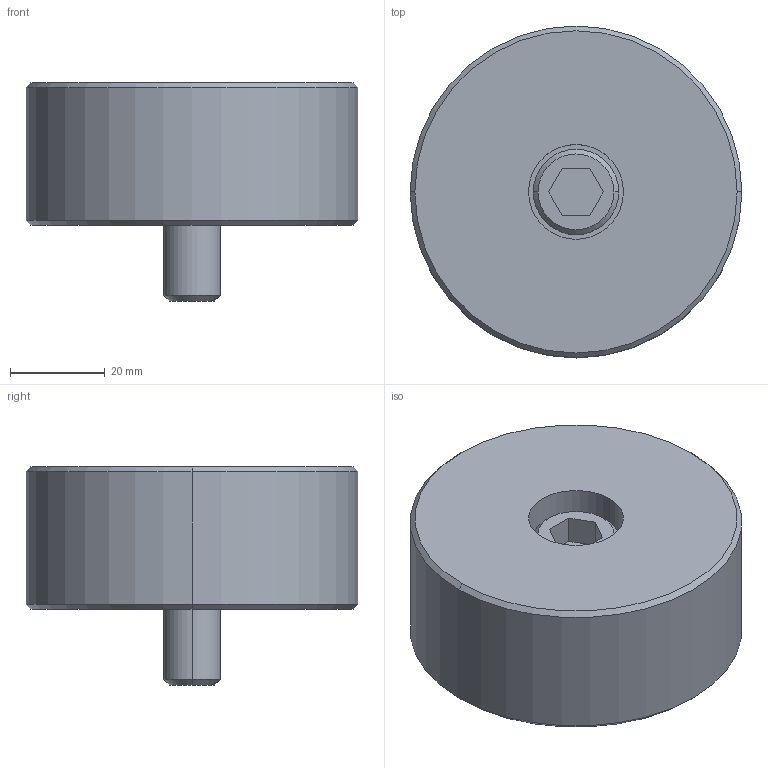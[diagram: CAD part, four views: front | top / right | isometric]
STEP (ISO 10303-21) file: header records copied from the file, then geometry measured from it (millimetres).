
FILE_DESCRIPTION((''),'2;1');
FILE_NAME('','2010-08-30T16:50:32+09:00',('misumi'),(''),'M/STEP i/f 1R2-14','CADmeister v5.1','');
FILE_SCHEMA(('AUTOMOTIVE_DESIGN'));
Length unit declared in the file: millimetre
Products named in the file (1): DEB70-30-Y
Bounding box: 70 x 70 x 46 mm (x, y, z)
Volume: 113928.4 mm3; surface area: 17810.7 mm2
Topology: 2 solids, 2 shells, 31 faces, 64 edges, 40 vertices
Faces by surface type: plane 13, cylinder 10, cone 8
Entity records: 924 total; most frequent: DIRECTION 156, CARTESIAN_POINT 136, ORIENTED_EDGE 128, EDGE_CURVE 64, AXIS2_PLACEMENT_3D 60, VERTEX_POINT 40, LINE 36, VECTOR 36
